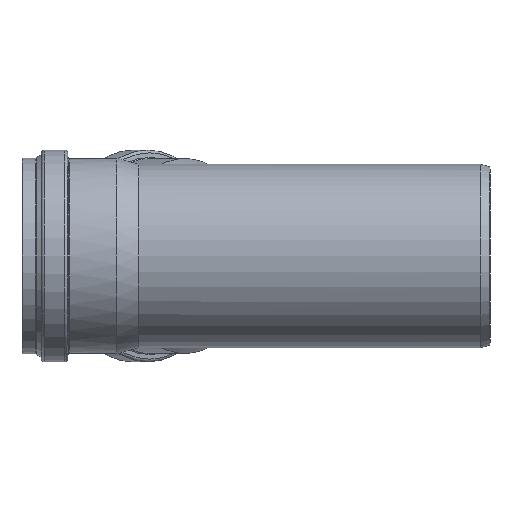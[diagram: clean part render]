
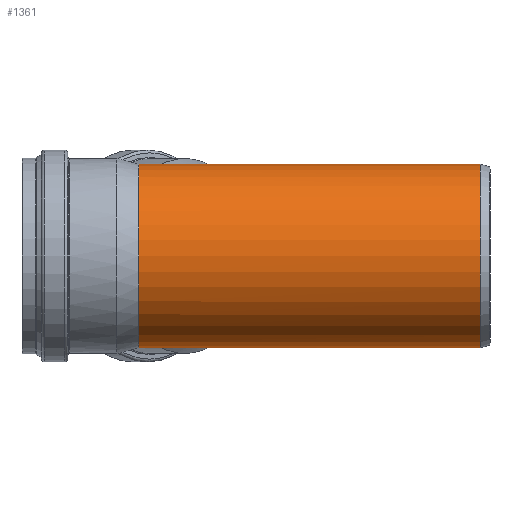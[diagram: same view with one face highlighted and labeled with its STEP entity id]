
A CAD part, left-side view. The second image highlights one B-rep face of the part: STEP entity #1361.
In plain terms, the highlighted cylindrical face has radius 125.15 mm (diameter 250.3 mm), a full revolution.
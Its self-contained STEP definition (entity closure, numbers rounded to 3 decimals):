
#95=LINE('',#3090,#132);
#132=VECTOR('',#1952,125.15);
#226=CIRCLE('',#1546,125.15);
#229=CIRCLE('',#1551,125.15);
#311=CYLINDRICAL_SURFACE('',#1553,125.15);
#363=FACE_OUTER_BOUND('',#443,.T.);
#443=EDGE_LOOP('',(#1127,#1128,#1129,#1130,#1131,#1132,#1133,#1134,#1135,
#1136));
#485=B_SPLINE_CURVE_WITH_KNOTS('',3,(#2444,#2445,#2446,#2447,#2448,#2449,
#2450,#2451,#2452,#2453),.UNSPECIFIED.,.F.,.F.,(4,3,3,4),(1.512,
1.527,1.546,1.566),.UNSPECIFIED.);
#491=B_SPLINE_CURVE_WITH_KNOTS('',3,(#2666,#2667,#2668,#2669,#2670,#2671,
#2672,#2673,#2674,#2675),.UNSPECIFIED.,.F.,.F.,(4,3,3,4),(0.,0.015,
0.02,0.032),.UNSPECIFIED.);
#498=ELLIPSE('',#1420,331.499,125.15);
#501=ELLIPSE('',#1423,331.499,125.15);
#503=ELLIPSE('',#1425,135.781,125.15);
#504=ELLIPSE('',#1426,135.781,125.15);
#517=VERTEX_POINT('',#2437);
#518=VERTEX_POINT('',#2443);
#523=VERTEX_POINT('',#2591);
#524=VERTEX_POINT('',#2665);
#526=VERTEX_POINT('',#2753);
#527=VERTEX_POINT('',#2798);
#528=VERTEX_POINT('',#2870);
#596=VERTEX_POINT('',#3084);
#662=EDGE_CURVE('',#518,#517,#485,.T.);
#668=EDGE_CURVE('',#524,#523,#491,.T.);
#672=EDGE_CURVE('',#518,#526,#498,.T.);
#675=EDGE_CURVE('',#527,#523,#501,.T.);
#677=EDGE_CURVE('',#526,#528,#503,.T.);
#678=EDGE_CURVE('',#528,#527,#504,.T.);
#779=EDGE_CURVE('',#524,#517,#226,.T.);
#784=EDGE_CURVE('',#596,#596,#229,.T.);
#787=EDGE_CURVE('',#528,#596,#95,.T.);
#1127=ORIENTED_EDGE('',*,*,#662,.T.);
#1128=ORIENTED_EDGE('',*,*,#779,.F.);
#1129=ORIENTED_EDGE('',*,*,#668,.T.);
#1130=ORIENTED_EDGE('',*,*,#675,.F.);
#1131=ORIENTED_EDGE('',*,*,#678,.F.);
#1132=ORIENTED_EDGE('',*,*,#787,.T.);
#1133=ORIENTED_EDGE('',*,*,#784,.T.);
#1134=ORIENTED_EDGE('',*,*,#787,.F.);
#1135=ORIENTED_EDGE('',*,*,#677,.F.);
#1136=ORIENTED_EDGE('',*,*,#672,.F.);
#1361=ADVANCED_FACE('',(#363),#311,.T.);
#1420=AXIS2_PLACEMENT_3D('',#2754,#1663,#1664);
#1423=AXIS2_PLACEMENT_3D('',#2800,#1669,#1670);
#1425=AXIS2_PLACEMENT_3D('',#2871,#1673,#1674);
#1426=AXIS2_PLACEMENT_3D('',#2872,#1675,#1676);
#1546=AXIS2_PLACEMENT_3D('',#3075,#1933,#1934);
#1551=AXIS2_PLACEMENT_3D('',#3085,#1945,#1946);
#1553=AXIS2_PLACEMENT_3D('',#3089,#1950,#1951);
#1663=DIRECTION('center_axis',(0.926,-0.378,0.));
#1664=DIRECTION('ref_axis',(0.378,0.926,0.));
#1669=DIRECTION('center_axis',(0.926,-0.378,0.));
#1670=DIRECTION('ref_axis',(0.378,0.926,0.));
#1673=DIRECTION('center_axis',(0.388,0.922,0.));
#1674=DIRECTION('ref_axis',(0.922,-0.388,0.));
#1675=DIRECTION('center_axis',(0.388,0.922,0.));
#1676=DIRECTION('ref_axis',(0.922,-0.388,0.));
#1933=DIRECTION('center_axis',(0.,1.,0.));
#1934=DIRECTION('ref_axis',(1.,0.,0.));
#1945=DIRECTION('center_axis',(0.,1.,0.));
#1946=DIRECTION('ref_axis',(1.,0.,0.));
#1950=DIRECTION('center_axis',(0.,1.,0.));
#1951=DIRECTION('ref_axis',(-1.,0.,0.));
#1952=DIRECTION('',(0.,-1.,0.));
#2437=CARTESIAN_POINT('',(116.24,479.478,46.376));
#2443=CARTESIAN_POINT('',(116.35,479.383,46.099));
#2444=CARTESIAN_POINT('Ctrl Pts',(116.351,479.383,46.1));
#2445=CARTESIAN_POINT('Ctrl Pts',(116.342,479.4,46.121));
#2446=CARTESIAN_POINT('Ctrl Pts',(116.333,479.415,46.144));
#2447=CARTESIAN_POINT('Ctrl Pts',(116.323,479.428,46.169));
#2448=CARTESIAN_POINT('Ctrl Pts',(116.31,479.445,46.2));
#2449=CARTESIAN_POINT('Ctrl Pts',(116.297,479.457,46.233));
#2450=CARTESIAN_POINT('Ctrl Pts',(116.284,479.466,46.268));
#2451=CARTESIAN_POINT('Ctrl Pts',(116.269,479.474,46.303));
#2452=CARTESIAN_POINT('Ctrl Pts',(116.255,479.478,46.34));
#2453=CARTESIAN_POINT('Ctrl Pts',(116.24,479.478,46.376));
#2591=CARTESIAN_POINT('',(116.35,479.383,-46.099));
#2665=CARTESIAN_POINT('',(116.24,479.478,-46.376));
#2666=CARTESIAN_POINT('Ctrl Pts',(116.24,479.478,-46.376));
#2667=CARTESIAN_POINT('Ctrl Pts',(116.259,479.478,-46.328));
#2668=CARTESIAN_POINT('Ctrl Pts',(116.278,479.471,-46.281));
#2669=CARTESIAN_POINT('Ctrl Pts',(116.296,479.457,-46.236));
#2670=CARTESIAN_POINT('Ctrl Pts',(116.302,479.452,-46.222));
#2671=CARTESIAN_POINT('Ctrl Pts',(116.308,479.447,-46.207));
#2672=CARTESIAN_POINT('Ctrl Pts',(116.313,479.44,-46.193));
#2673=CARTESIAN_POINT('Ctrl Pts',(116.327,479.425,-46.159));
#2674=CARTESIAN_POINT('Ctrl Pts',(116.339,479.406,-46.128));
#2675=CARTESIAN_POINT('Ctrl Pts',(116.351,479.383,-46.1));
#2753=CARTESIAN_POINT('',(0.,194.,125.15));
#2754=CARTESIAN_POINT('Origin',(0.,194.,0.));
#2798=CARTESIAN_POINT('',(0.,194.,-125.15));
#2800=CARTESIAN_POINT('Origin',(0.,194.,0.));
#2870=CARTESIAN_POINT('',(125.15,141.333,0.));
#2871=CARTESIAN_POINT('Origin',(0.,194.,0.));
#2872=CARTESIAN_POINT('Origin',(0.,194.,0.));
#3075=CARTESIAN_POINT('Origin',(0.,479.478,0.));
#3084=CARTESIAN_POINT('',(125.15,13.,0.));
#3085=CARTESIAN_POINT('Origin',(0.,13.,0.));
#3089=CARTESIAN_POINT('Origin',(0.,246.239,0.));
#3090=CARTESIAN_POINT('',(125.15,246.239,0.));
